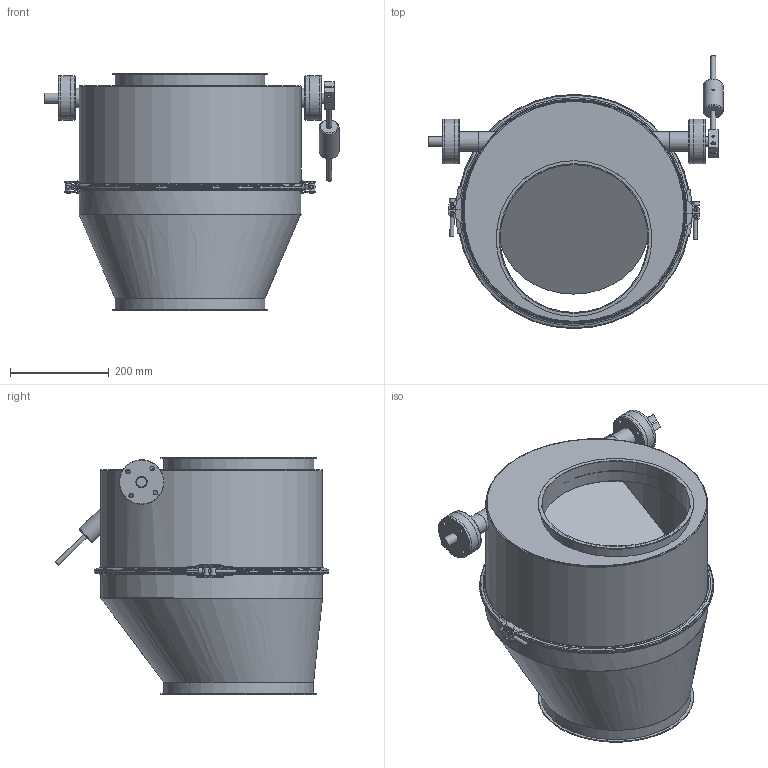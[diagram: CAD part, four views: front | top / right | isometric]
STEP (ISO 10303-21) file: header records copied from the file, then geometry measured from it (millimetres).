
FILE_DESCRIPTION((''),'2;1');
FILE_NAME('U:\Wolfgang\Marcel-3D\fertig\Kapitel 8\3021175.stp','2012-01-13T11:18:04',('iwienholt'),(''),'Autodesk Inventor 2010','Autodesk Inventor 2010','');
FILE_SCHEMA(('AUTOMOTIVE_DESIGN { 1 0 10303 214 1 1 1 1 }'));
Length unit declared in the file: millimetre
Products named in the file (14): 3021175; Wellenende D20; Buchse D20 90-50; LagerdeckelD20; PendelkugellagerD20; Hebel D20; WelleDN300; 4512056; 4522055-1; Verschluss b=474; Verschlussrolle; VerschlussrolleGewinde; ISO 4762 M8 x 70; 3011175-1
Assembly tree (21 placements, depth 3):
  3021175
    Wellenende D20  x2
      Buchse D20 90-50
      LagerdeckelD20
      PendelkugellagerD20
    Hebel D20
    WelleDN300
    4512056
      4522055-1  x2
      Verschluss b=474  x4
      Verschlussrolle  x2
      VerschlussrolleGewinde  x2
      ISO 4762 M8 x 70  x2
    3011175-1
Bounding box: 595 x 552.99 x 480 mm (x, y, z)
Volume: 1309480.9 mm3; surface area: 2894656.4 mm2
Topology: 21 solids, 23 shells, 564 faces, 1407 edges, 931 vertices
Faces by surface type: cylinder 188, plane 163, bspline 118, cone 72, torus 23
Full cylindrical faces by diameter (mm): 5 x8, 6 x2, 8 x10, 9 x1, 10 x2, 12 x4, 13 x2, 20 x7, 20.5 x2, 23 x2, 30 x2, 40 x7, 47 x2, 90 x6, 299 x2, 299.2 x1, 302.8 x3, 303 x3, 314.8 x2, 315 x2, 445 x1, 445.2 x1, 448.8 x2, 449 x2, 460.8 x1, 461 x1
Entity records: 10963 total; most frequent: CARTESIAN_POINT 4957, DIRECTION 1186, ORIENTED_EDGE 1002, AXIS2_PLACEMENT_3D 513, EDGE_CURVE 501, EDGE_LOOP 442, VERTEX_POINT 383, FACE_OUTER_BOUND 267
